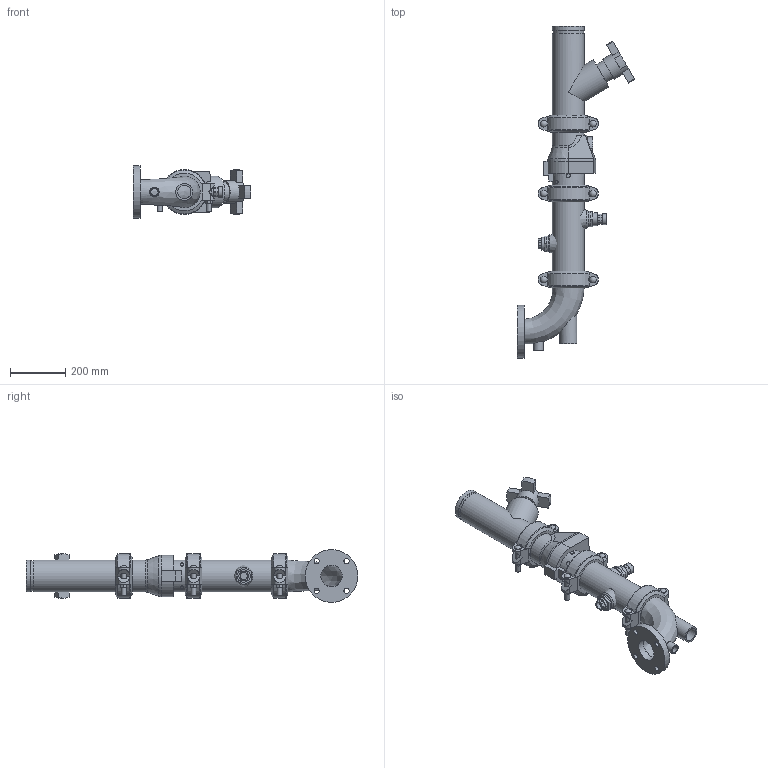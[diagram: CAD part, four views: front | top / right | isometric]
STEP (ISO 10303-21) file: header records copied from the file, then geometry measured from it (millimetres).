
FILE_DESCRIPTION(/* description */ ('VIC DVI PUMP DROP HORZ S/383 (OGSxFLG) (S/924-0.75)','CAx-IF Rec.Pracs.---Representation and Presentation of Product Manufacturing Information (PMI)---4.0---2014-10-13'),/* implementation_level */ '2;1');
FILE_NAME(/* name */ 'C:\Users\Vjadhav\AppData\Roaming\Autodesk\ApplicationPlugins\Victaulic.Temp\A892\Victaulic_IPS_Horizontal DVI_CL 150_Series 383 (OGSxFLG)_924 (0.75)_04.0x03.0 (100x80).stp',/* time_stamp */ '2022-02-28T15:42:47+05:00',/* author */ ('kkamble'),/* organization */ ('Victaulic'),/* preprocessor_version */ 'ST-DEVELOPER v17.2',/* originating_system */ 'Autodesk Inventor 2019',/* authorisation */ '');
FILE_SCHEMA (('AP242_MANAGED_MODEL_BASED_3D_ENGINEERING_MIM_LF { 1 0 10303 442 1 1 4 }'));
Length unit declared in the file: inch
Products named in the file (8): 383-924 (0.75)-04.0x03.0; Pipe-04.0x03.0; 789-04.0; 177N-04.0; 779-04.0; 923-04.0x0.75; 924-04.0x0.75; R100F-04.0x03.0
Assembly tree (9 placements, depth 2):
  383-924 (0.75)-04.0x03.0
    177N-04.0  x3
    Pipe-04.0x03.0
    789-04.0
    779-04.0
    923-04.0x0.75
    924-04.0x0.75
    R100F-04.0x03.0
Bounding box: 423.93 x 1198.56 x 190.5 mm (x, y, z)
Volume: 8044873.9 mm3; surface area: 1393909.1 mm2
Topology: 9 solids, 9 shells, 528 faces, 1410 edges, 940 vertices
Faces by surface type: plane 306, cylinder 175, torus 18, cone 17, sphere 6, bspline 6
Full cylindrical faces by diameter (mm): 13.716 x2, 17.424 x6, 19.05 x4, 23.495 x6, 26.67 x3, 34.29 x1, 38.608 x1, 45.974 x4, 48.26 x1, 55.626 x2, 60.96 x1, 72.39 x1, 77.927 x1, 82.55 x1, 101.6 x3, 102.26 x4, 110.084 x7, 114.3 x18, 190.5 x1
Entity records: 12724 total; most frequent: CARTESIAN_POINT 3382, DIRECTION 1911, ORIENTED_EDGE 1768, EDGE_CURVE 884, AXIS2_PLACEMENT_3D 730, VERTEX_POINT 596, LINE 451, VECTOR 451
